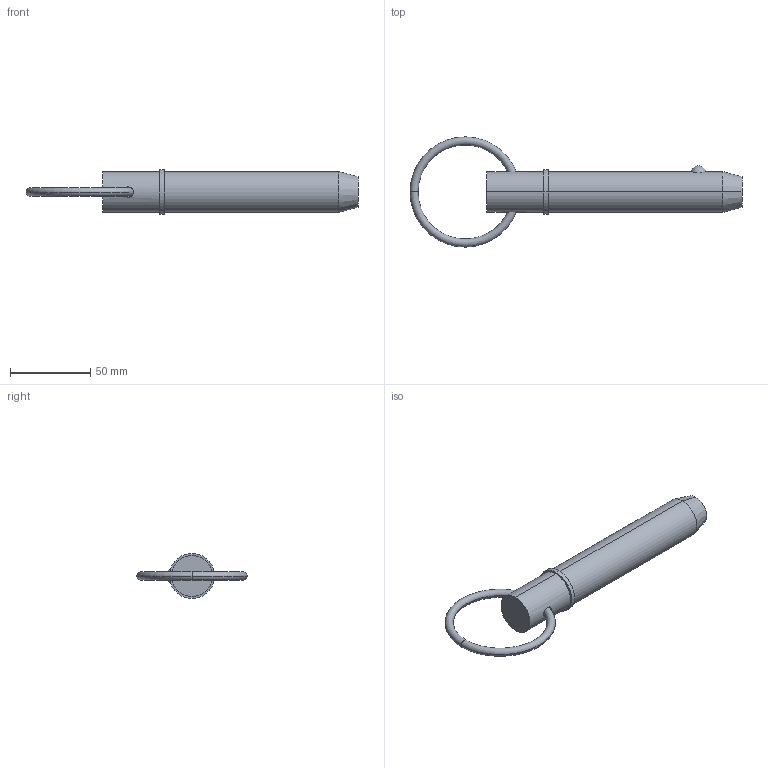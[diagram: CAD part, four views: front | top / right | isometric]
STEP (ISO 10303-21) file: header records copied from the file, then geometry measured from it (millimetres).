
FILE_DESCRIPTION (( 'STEP AP203' ), '1' );
FILE_NAME ('33014.W1035.step', '2024-11-04T08:39:35', ( '' ), ( '' ), 'SwSTEP 2.0', 'SolidWorks 2019', '' );
FILE_SCHEMA (( 'CONFIG_CONTROL_DESIGN' ));
Length unit declared in the file: millimetre
Products named in the file (3): Part2_33014.W1035; 33014.W1035; Part1_33014.W1035
Assembly tree (2 placements, depth 2):
  33014.W1035
    Part1_33014.W1035
    Part2_33014.W1035
Bounding box: 206.52 x 68.58 x 27.94 mm (x, y, z)
Volume: 82717.5 mm3; surface area: 17280.3 mm2
Topology: 2 solids, 2 shells, 22 faces, 43 edges, 26 vertices
Faces by surface type: torus 8, cylinder 6, plane 4, sphere 2, cone 2
Entity records: 1075 total; most frequent: CARTESIAN_POINT 298, DIRECTION 120, ORIENTED_EDGE 86, AXIS2_PLACEMENT_3D 56, EDGE_CURVE 43, CIRCLE 29, EDGE_LOOP 27, PERSON_AND_ORGANIZATION 26
